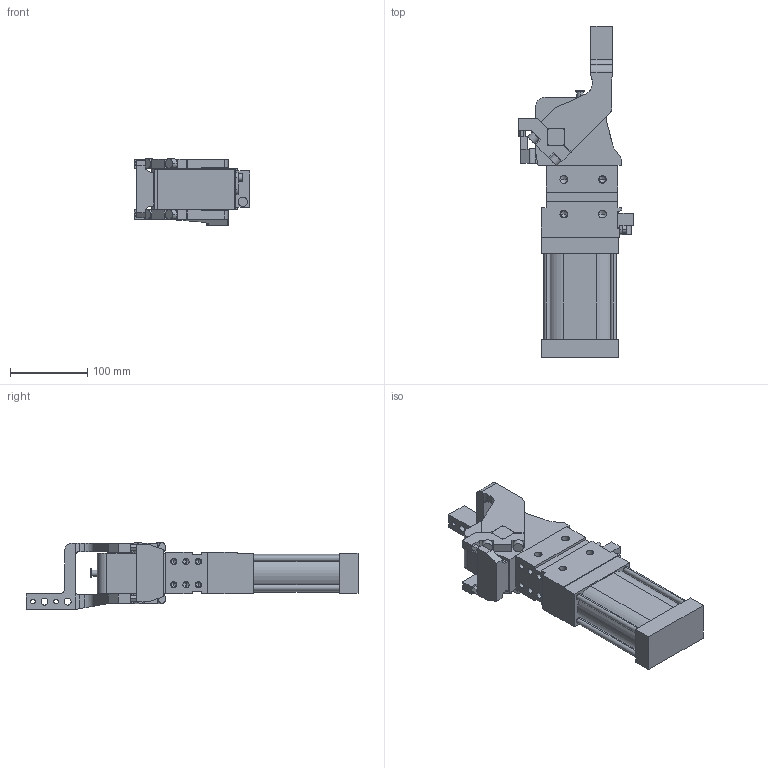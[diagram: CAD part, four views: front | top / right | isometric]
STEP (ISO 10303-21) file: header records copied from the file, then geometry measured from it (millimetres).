
FILE_DESCRIPTION (( 'STEP AP214' ), '1' );
FILE_NAME ('cpl63th3dsi1g_75.STEP', '2023-01-26T13:02:16', ( '' ), ( '' ), 'SwSTEP 2.0', 'SolidWorks 2022', '' );
FILE_SCHEMA (( 'AUTOMOTIVE_DESIGN' ));
Length unit declared in the file: millimetre
Products named in the file (4): leva_h3ds_cpl63t; cpl63th3dsi1g_75; blocchetto_VEP_0; meccanica_cpl_63_tassello_esterno
Assembly tree (3 placements, depth 2):
  cpl63th3dsi1g_75
    meccanica_cpl_63_tassello_esterno
    blocchetto_VEP_0
    leva_h3ds_cpl63t
Bounding box: 149.5 x 430.5 x 86.5 mm (x, y, z)
Volume: 1851495.5 mm3; surface area: 203466.1 mm2
Topology: 3 solids, 3 shells, 435 faces, 1148 edges, 713 vertices
Faces by surface type: plane 231, cylinder 154, cone 50
Entity records: 14690 total; most frequent: CARTESIAN_POINT 2356, DIRECTION 2305, ORIENTED_EDGE 2204, EDGE_CURVE 1102, AXIS2_PLACEMENT_3D 776, LINE 753, VECTOR 753, VERTEX_POINT 713
